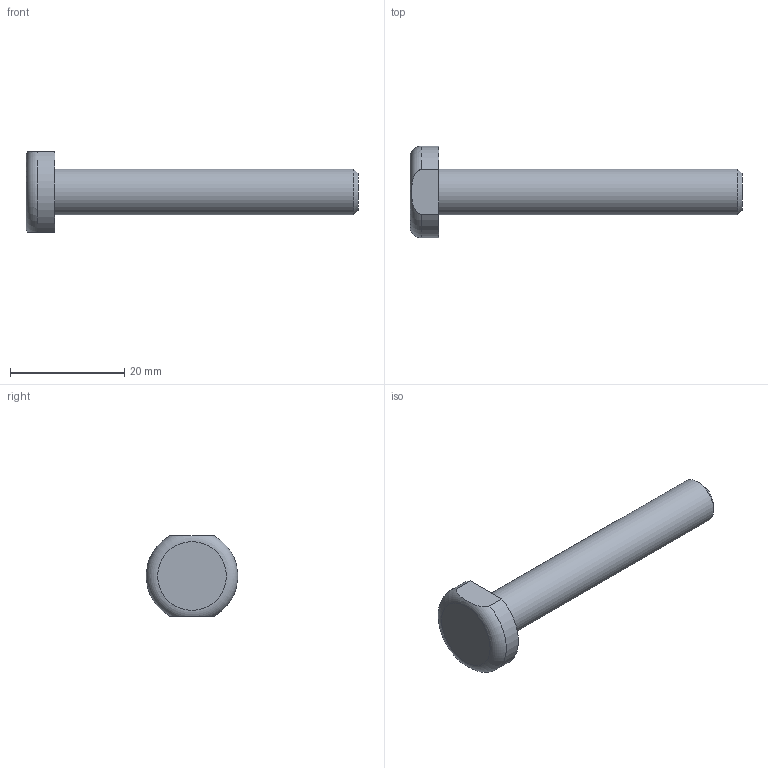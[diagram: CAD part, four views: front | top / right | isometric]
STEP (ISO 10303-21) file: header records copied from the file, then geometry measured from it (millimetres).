
FILE_DESCRIPTION(/* description */ (''),/* implementation_level */ '2;1');
FILE_NAME(/* name */ '',/* time_stamp */ '2025-06-11T17:31:20+09:00',/* author */ ('jhkim'),/* organization */ (''),/* preprocessor_version */ 'ST-DEVELOPER v20.1',/* originating_system */ 'Autodesk Inventor 2026',/* authorisation */ '');
FILE_SCHEMA (('AUTOMOTIVE_DESIGN { 1 0 10303 214 3 1 1 }'));
Length unit declared in the file: millimetre
Products named in the file (1): 핀
Bounding box: 58 x 15.95 x 14 mm (x, y, z)
Volume: 3579.3 mm3; surface area: 1912.4 mm2
Topology: 1 solids, 1 shells, 10 faces, 21 edges, 14 vertices
Faces by surface type: plane 5, cylinder 3, cone 1, torus 1
Full cylindrical faces by diameter (mm): 8 x1
Entity records: 348 total; most frequent: CARTESIAN_POINT 82, DIRECTION 50, ORIENTED_EDGE 42, EDGE_CURVE 21, AXIS2_PLACEMENT_3D 21, VERTEX_POINT 14, EDGE_LOOP 11, FACE_OUTER_BOUND 10
